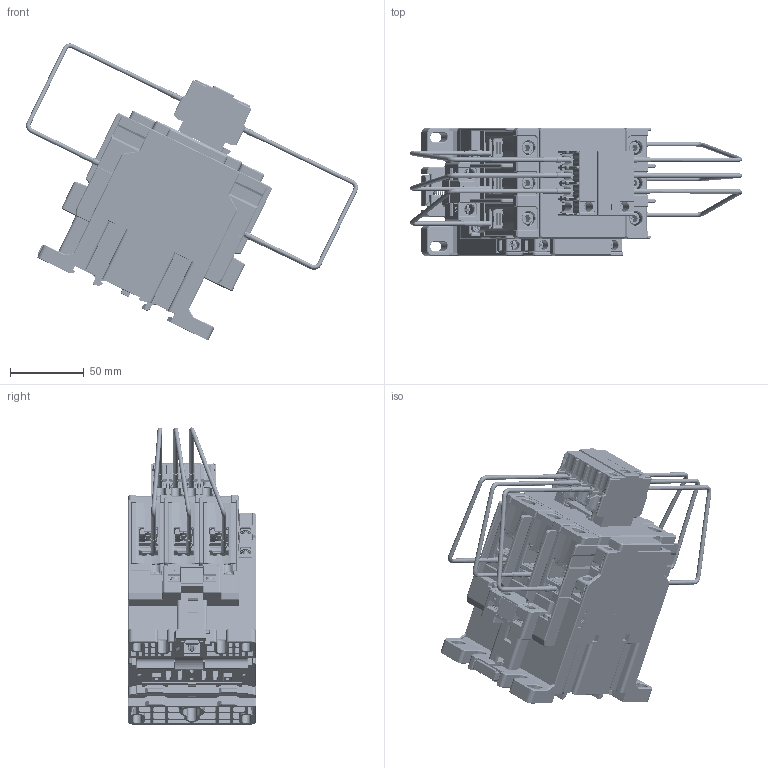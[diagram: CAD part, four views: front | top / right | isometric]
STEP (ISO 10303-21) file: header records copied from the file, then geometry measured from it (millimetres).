
FILE_DESCRIPTION((''),'2;1');
FILE_NAME('2400C1655_ASM','2025-03-04T13:31:39',('zyongj'),(''),'CREO PARAMETRIC BY PTC INC, 2020044','CREO PARAMETRIC BY PTC INC, 2020044','');
FILE_SCHEMA(('CONFIG_CONTROL_DESIGN','SHAPE_APPEARANCE_LAYERS_GROUPS'));
Products named in the file (147): 8ZTD-024-823; 8ZTD-557-693_AF1; 8ZTD-550-686; 5ZTD-550-599_ASM; 8ZTD-557-589; 8ZTJ-550-087-ZP1_AF12; 8ZTJ-550-087-ZP2_AF12; 8ZTJ-550-087-1_4_AF7_ASM; 5ZTD-550-504_AF17_ASM; 8ZTJ-907-002; 8ZTJ-950-003_AF8; 5ZTJ-850-001_AF8_ASM; 5ZTD-550-774_AF3_ASM; 8ZTJ-550-087-ZP1_AF11; 8ZTJ-550-087-ZP2_AF11; 8ZTJ-550-087-1_4_AF9_ASM; 5ZTD-550-504_AF16_ASM; 8ZTJ-950-003_AF9; 5ZTJ-850-001_AF7_ASM; 5ZTD-550-774_AF2_ASM; 8ZTD-557-590; 8ZTJ-550-087-ZP1_AF10; 8ZTJ-550-087-ZP2_AF10; 8ZTJ-550-087-1_4_AF10_ASM; 5ZTD-550-505_AF3_ASM; 8ZTJ-950-003_AF7; 5ZTJ-850-001_AF6_ASM; 5ZTD-550-775_AF2_ASM; 8ZTJ-550-087-ZP1_AF9; 8ZTJ-550-087-ZP2_AF9; 8ZTJ-550-087-1_4_AF8_ASM; 5ZTD-550-505_AF2_ASM; 8ZTJ-950-003_AF6; 5ZTJ-850-001_AF5_ASM; 5ZTD-550-775_AF3_ASM; 5ZTD-024-682_AF0_ASM; 8ZTD-022-611; 8ZTD-261-090; 8ZTJ-282-105_AF1; 5ZTD-022-408_AF0_ASM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
Assembly tree (200 placements, depth 7):
  2400C1655_ASM
    2ZTD-400-172_AF0_ASM
      5ZTD-024-682_AF0_ASM
        8ZTD-024-823
        5ZTD-550-599_ASM  x6
          8ZTD-557-693_AF1
          8ZTD-550-686
        5ZTD-550-774_AF3_ASM
          5ZTD-550-504_AF17_ASM
            8ZTD-557-589
            8ZTJ-550-087-1_4_AF7_ASM
              8ZTJ-550-087-ZP1_AF12
              8ZTJ-550-087-ZP2_AF12
          5ZTJ-850-001_AF8_ASM
            8ZTJ-907-002
            8ZTJ-950-003_AF8
        5ZTD-550-774_AF2_ASM
          5ZTD-550-504_AF16_ASM
            8ZTD-557-589
            8ZTJ-550-087-1_4_AF9_ASM
              8ZTJ-550-087-ZP1_AF11
              8ZTJ-550-087-ZP2_AF11
          5ZTJ-850-001_AF7_ASM
            8ZTJ-907-002
            8ZTJ-950-003_AF9
        5ZTD-550-775_AF2_ASM
          5ZTD-550-505_AF3_ASM
            8ZTD-557-590
            8ZTJ-550-087-1_4_AF10_ASM
              8ZTJ-550-087-ZP1_AF10
              8ZTJ-550-087-ZP2_AF10
          5ZTJ-850-001_AF6_ASM
            8ZTJ-907-002
            8ZTJ-950-003_AF7
        5ZTD-550-775_AF3_ASM
          5ZTD-550-505_AF2_ASM
            8ZTD-557-590
            8ZTJ-550-087-1_4_AF8_ASM
              8ZTJ-550-087-ZP1_AF9
              8ZTJ-550-087-ZP2_AF9
          5ZTJ-850-001_AF5_ASM
            8ZTJ-907-002
            8ZTJ-950-003_AF6
      5ZTD-022-400_AF0_ASM
        5ZTD-022-408_AF0_ASM
          8ZTD-022-611
          8ZTD-261-090
          8ZTJ-282-105_AF1
        5ZTD-520-776_AF0_ASM
          5ZTD-732-055_ASM
            5732C1634_ASM
              8ZTD-732-448
              8ZTD-516-251  x2
          QBX_AF1
        5ZTJ-850-001_AF4_ASM
          8ZTJ-907-002
          8ZTJ-950-003_AF5
        5ZTJ-850-001_AF10_ASM
          8ZTJ-907-002
          8ZTJ-950-003_AF12
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Bounding box: 225.39 x 86.7 x 201.69 mm (x, y, z)
Volume: 412006.3 mm3; surface area: 450967.5 mm2
Topology: 172 solids, 222 shells, 23029 faces, 59578 edges, 37453 vertices
Faces by surface type: plane 13362, cylinder 6107, sphere 901, torus 860, cone 729, bspline 544, extrusion 526
Entity records: 708909 total; most frequent: CARTESIAN_POINT 157864, ORIENTED_EDGE 85966, DIRECTION 81626, EDGE_CURVE 43004, PRESENTATION_STYLE_ASSIGNMENT 37455, STYLED_ITEM 35990, CURVE_STYLE 31429, VECTOR 31010
